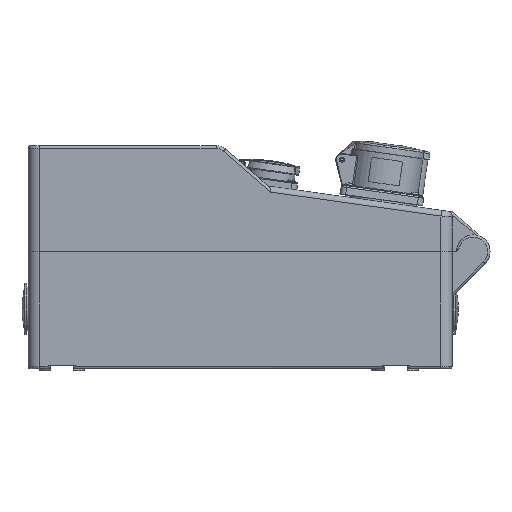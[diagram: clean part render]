
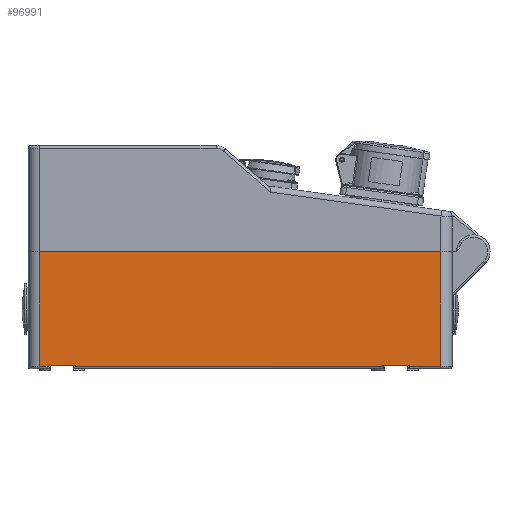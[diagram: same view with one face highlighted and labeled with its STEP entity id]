
A CAD part, left-side view. The second image highlights one B-rep face of the part: STEP entity #96991.
In plain terms, the highlighted planar face has unit normal (-1, 0, 0).
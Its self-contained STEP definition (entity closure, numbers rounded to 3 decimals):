
#11440=DIRECTION('',(0.,-1.,0.));
#11441=VECTOR('',#11440,360.);
#11442=CARTESIAN_POINT('',(-115.,180.,-1.1));
#11443=LINE('4237',#11442,#11441);
#12277=CARTESIAN_POINT('',(-115.,-180.,-104.1));
#12967=DIRECTION('',(0.,1.,0.));
#12968=VECTOR('',#12967,7.8);
#12969=CARTESIAN_POINT('',(-115.,172.2,-104.1));
#12970=LINE('4651',#12969,#12968);
#12971=DIRECTION('',(0.,0.,-1.));
#12972=VECTOR('',#12971,103.);
#12973=CARTESIAN_POINT('',(-115.,180.,-1.1));
#12974=LINE('4652',#12973,#12972);
#12975=DIRECTION('',(0.,0.,-1.));
#12976=VECTOR('',#12975,103.);
#12977=CARTESIAN_POINT('',(-115.,-180.,-1.1));
#12978=LINE('4682',#12977,#12976);
#12979=DIRECTION('',(0.,1.,0.));
#12980=VECTOR('',#12979,27.8);
#12981=CARTESIAN_POINT('',(-115.,-180.,-104.1));
#12982=LINE('4677',#12981,#12980);
#12983=DIRECTION('',(0.,0.,-1.));
#12984=VECTOR('',#12983,0.8);
#12985=CARTESIAN_POINT('',(-115.,-152.2,-103.3));
#12986=LINE('4629',#12985,#12984);
#12987=DIRECTION('',(0.,1.,0.));
#12988=VECTOR('',#12987,24.4);
#12989=CARTESIAN_POINT('',(-115.,-152.2,-103.3));
#12990=LINE('4436',#12989,#12988);
#12991=DIRECTION('',(0.,0.,-1.));
#12992=VECTOR('',#12991,0.8);
#12993=CARTESIAN_POINT('',(-115.,-127.8,-103.3));
#12994=LINE('4630',#12993,#12992);
#12995=DIRECTION('',(0.,1.,0.));
#12996=VECTOR('',#12995,275.6);
#12997=CARTESIAN_POINT('',(-115.,-127.8,-104.1));
#12998=LINE('4609',#12997,#12996);
#12999=DIRECTION('',(0.,0.,-1.));
#13000=VECTOR('',#12999,0.8);
#13001=CARTESIAN_POINT('',(-115.,147.8,-103.3));
#13002=LINE('4627',#13001,#13000);
#13003=DIRECTION('',(0.,-1.,0.));
#13004=VECTOR('',#13003,24.4);
#13005=CARTESIAN_POINT('',(-115.,172.2,-103.3));
#13006=LINE('4435',#13005,#13004);
#13007=DIRECTION('',(0.,0.,-1.));
#13008=VECTOR('',#13007,0.8);
#13009=CARTESIAN_POINT('',(-115.,172.2,-103.3));
#13010=LINE('4628',#13009,#13008);
#13016=CARTESIAN_POINT('',(-115.,172.2,-104.1));
#14204=CARTESIAN_POINT('',(-115.,-152.2,-104.1));
#66083=CARTESIAN_POINT('',(-115.,180.,-1.1));
#66085=VERTEX_POINT('',#66083);
#66090=CARTESIAN_POINT('',(-115.,-180.,-1.1));
#66092=VERTEX_POINT('',#66090);
#66424=CARTESIAN_POINT('',(-115.,172.2,-103.3));
#66425=CARTESIAN_POINT('',(-115.,147.8,-103.3));
#66426=VERTEX_POINT('',#66424);
#66427=VERTEX_POINT('',#66425);
#66428=CARTESIAN_POINT('',(-115.,-152.2,-103.3));
#66429=CARTESIAN_POINT('',(-115.,-127.8,-103.3));
#66430=VERTEX_POINT('',#66428);
#66431=VERTEX_POINT('',#66429);
#66582=CARTESIAN_POINT('',(-115.,-127.8,-104.1));
#66583=CARTESIAN_POINT('',(-115.,147.8,-104.1));
#66584=VERTEX_POINT('',#66582);
#66585=VERTEX_POINT('',#66583);
#66590=VERTEX_POINT('',#13016);
#66595=VERTEX_POINT('',#14204);
#66600=CARTESIAN_POINT('',(-115.,180.,-104.1));
#66601=VERTEX_POINT('',#66600);
#66610=VERTEX_POINT('',#12277);
#96964=CARTESIAN_POINT('',(-115.,190.,-106.1));
#96965=DIRECTION('',(-1.,0.,0.));
#96966=DIRECTION('',(0.,-1.,0.));
#96967=AXIS2_PLACEMENT_3D('',#96964,#96965,#96966);
#96968=PLANE('31',#96967);
#96970=ORIENTED_EDGE('4651',*,*,#96969,.T.);
#96971=ORIENTED_EDGE('4652',*,*,#96947,.F.);
#96972=ORIENTED_EDGE('4237',*,*,#94785,.T.);
#96974=ORIENTED_EDGE('4682',*,*,#96973,.T.);
#96975=ORIENTED_EDGE('4677',*,*,#95814,.T.);
#96977=ORIENTED_EDGE('4629',*,*,#96976,.F.);
#96978=ORIENTED_EDGE('4436',*,*,#95971,.T.);
#96980=ORIENTED_EDGE('4630',*,*,#96979,.T.);
#96982=ORIENTED_EDGE('4609',*,*,#96981,.T.);
#96984=ORIENTED_EDGE('4627',*,*,#96983,.F.);
#96986=ORIENTED_EDGE('4435',*,*,#96985,.F.);
#96988=ORIENTED_EDGE('4628',*,*,#96987,.T.);
#96989=EDGE_LOOP('31',(#96970,#96971,#96972,#96974,#96975,#96977,#96978,#96980,
#96982,#96984,#96986,#96988));
#96990=FACE_OUTER_BOUND('31',#96989,.F.);
#94785=EDGE_CURVE('4237',#66085,#66092,#11443,.T.);
#95814=EDGE_CURVE('4677',#66610,#66595,#12982,.T.);
#95971=EDGE_CURVE('4436',#66430,#66431,#12990,.T.);
#96947=EDGE_CURVE('4652',#66085,#66601,#12974,.T.);
#96969=EDGE_CURVE('4651',#66590,#66601,#12970,.T.);
#96973=EDGE_CURVE('4682',#66092,#66610,#12978,.T.);
#96976=EDGE_CURVE('4629',#66430,#66595,#12986,.T.);
#96979=EDGE_CURVE('4630',#66431,#66584,#12994,.T.);
#96981=EDGE_CURVE('4609',#66584,#66585,#12998,.T.);
#96983=EDGE_CURVE('4627',#66427,#66585,#13002,.T.);
#96985=EDGE_CURVE('4435',#66426,#66427,#13006,.T.);
#96987=EDGE_CURVE('4628',#66426,#66590,#13010,.T.);
#96991=ADVANCED_FACE('31',(#96990),#96968,.T.);
